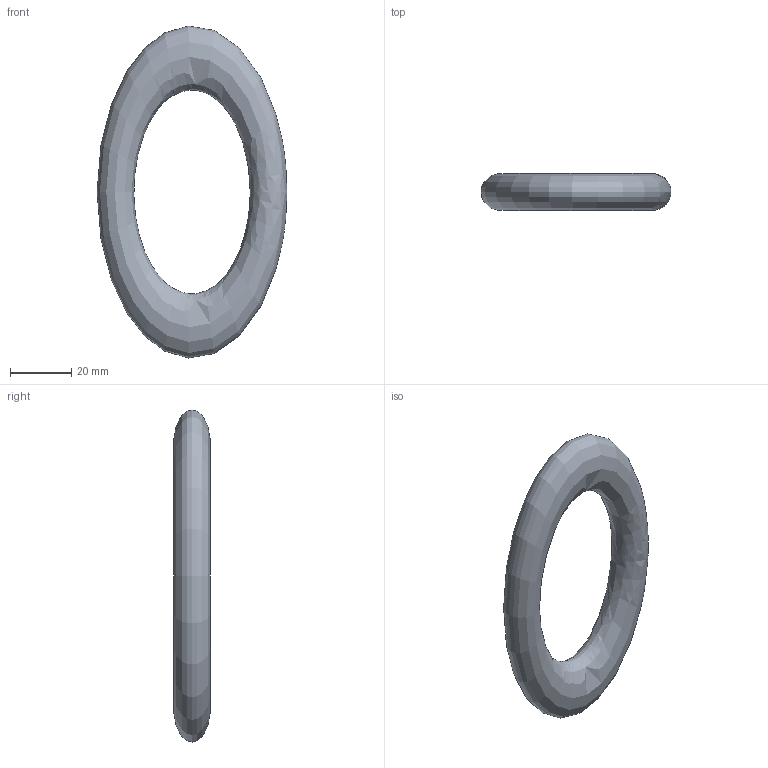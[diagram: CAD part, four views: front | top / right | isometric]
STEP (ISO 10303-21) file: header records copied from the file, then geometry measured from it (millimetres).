
FILE_DESCRIPTION(('FreeCAD Model'),'2;1');
FILE_NAME('Open CASCADE Shape Model','2026-10-20T16:17:42',('FreeCAD'),( 'FreeCAD'),'Open CASCADE STEP processor 7.8','FreeCAD','Unknown');
FILE_SCHEMA(('AUTOMOTIVE_DESIGN { 1 0 10303 214 1 1 1 1 }'));
Length unit declared in the file: millimetre
Products named in the file (1): Open CASCADE STEP translator 7.8 6
Bounding box: 61.99 x 12 x 108.42 mm (x, y, z)
Volume: 31375 mm3; surface area: 9432.2 mm2
Topology: 1 solids, 1 shells, 1 faces, 2 edges, 1 vertices
Faces by surface type: bspline 1
Entity records: 72 total; most frequent: CARTESIAN_POINT 51, DIRECTION 2, APPLICATION_PROTOCOL_DEFINITION 1, APPLICATION_CONTEXT 1, SHAPE_DEFINITION_REPRESENTATION 1, PRODUCT_DEFINITION_SHAPE 1, PRODUCT_DEFINITION 1, PRODUCT_DEFINITION_FORMATION 1
